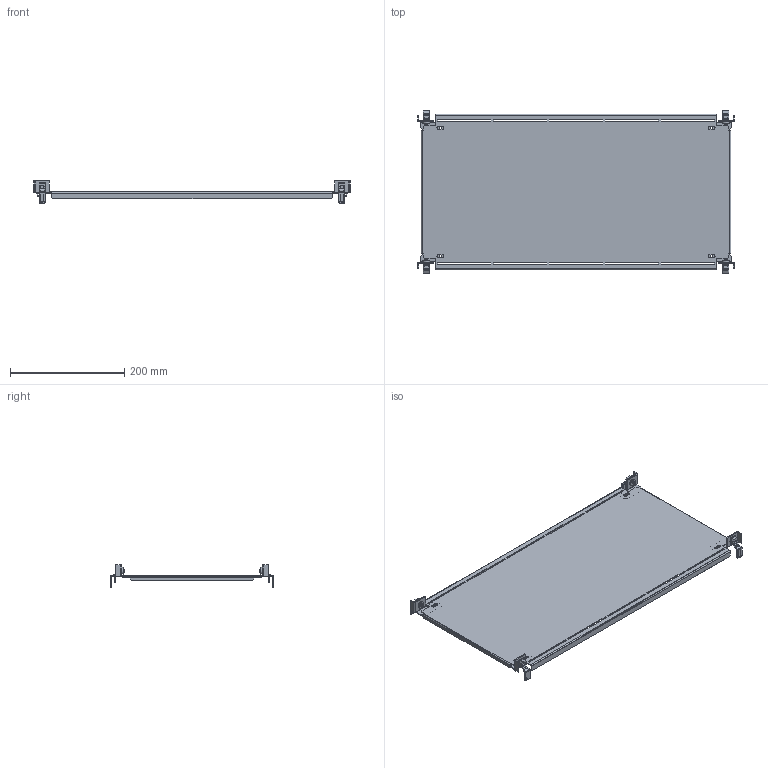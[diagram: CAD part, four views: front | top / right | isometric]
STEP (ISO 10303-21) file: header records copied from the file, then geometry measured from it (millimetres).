
FILE_DESCRIPTION(('CAx-IF Rec.Pracs.---Model Styling and Organization---1.2---2011-12-15','CAx-IF Rec.Pracs.---Geometric and Assembly Validation Properties---4.1---2014-06-16','CAx-IF Rec.Pracs.---PMI Polyline Presentation---2.0---2013-05-24'),'2;1');
FILE_NAME('R5CPB630.stp','2021-05-06T03:25:47+03:00',(''),(''),'STEP Interface 4.4 by CT CoreTechnologie','3D_Evolution4.4 by CT CoreTechnologie','');
FILE_SCHEMA(('AUTOMOTIVE_DESIGN { 1 0 10303 214 1 1 1 1 }'));
Length unit declared in the file: millimetre
Products named in the file (6): R5CPB630; AC00C485; M6x16-DIN 7985 ISR_thread; RB.0546.00.00.0_-01; RB.0546.00.00.0_-00; RB.0726.00.00.0_-17
Assembly tree (13 placements, depth 2):
  R5CPB630
    AC00C485  x4
    M6x16-DIN 7985 ISR_thread  x4
    RB.0546.00.00.0_-01  x2
    RB.0546.00.00.0_-00  x2
    RB.0726.00.00.0_-17
Bounding box: 555 x 287 x 39.05 mm (x, y, z)
Surface area: 338070.6 mm2 (no closed solid volume)
Topology: 0 solids, 21 shells, 580 faces, 1478 edges, 928 vertices
Faces by surface type: plane 320, cylinder 204, bspline 56
Entity records: 8727 total; most frequent: CARTESIAN_POINT 1889, ORIENTED_EDGE 1350, DIRECTION 1310, EDGE_CURVE 675, VECTOR 520, LINE 520, VERTEX_POINT 438, AXIS2_PLACEMENT_3D 395
